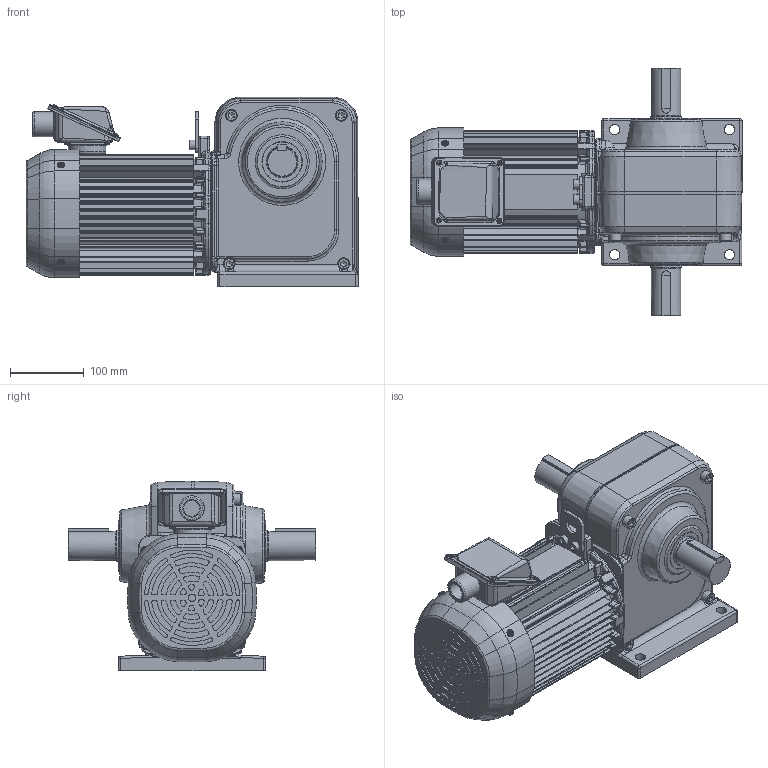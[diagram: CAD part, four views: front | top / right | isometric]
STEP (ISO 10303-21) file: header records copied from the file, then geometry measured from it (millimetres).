
FILE_DESCRIPTION( ( 'Unknown' ), '1' );
FILE_NAME( 'W:/gm/3D-WEB/GV-SHY/完成品/パーツ/完成品/完成品(GV-SHY_脚取付_2.2kW_ﾌﾞﾚｰｷ無_D_RT).stp', 'Unknown', ( 'Unknown' ), ( 'Unknown' ), 'PSStep 11.0', 'Unknown', ' ' );
FILE_SCHEMA( ( 'AUTOMOTIVE_DESIGN { 1 0 10303 214 1 1 1 1 }' ) );
Length unit declared in the file: millimetre
Products named in the file (1): P164062H14_牒埳偷(D)
Bounding box: 451 x 336 x 258 mm (x, y, z)
Volume: 12458352.3 mm3; surface area: 800579.6 mm2
Topology: 1 solids, 24 shells, 2364 faces, 5835 edges, 3569 vertices
Faces by surface type: cylinder 910, plane 848, bspline 296, torus 228, cone 59, sphere 23
Full cylindrical faces by diameter (mm): 2 x4, 3.8 x8, 4 x2, 4.2 x8, 4.5 x4, 4.917 x8, 5.5 x4, 5.8 x4, 6 x12, 6.647 x2, 7 x8, 8 x2, 10 x20, 11 x8, 13 x2, 14 x4, 16 x4, 17 x4, 20 x1, 22 x1, 23 x1, 24.117 x2, 25 x2, 26.3 x1, 34 x1, 40 x2, 42 x2, 45 x2, 48 x2, 50 x1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
Entity records: 135974 total; most frequent: CARTESIAN_POINT 63487, DIRECTION 11357, ORIENTED_EDGE 10936, EDGE_CURVE 5468, AXIS2_PLACEMENT_3D 4491, VERTEX_POINT 3495, EDGE_LOOP 2733, FACE_OUTER_BOUND 2540
